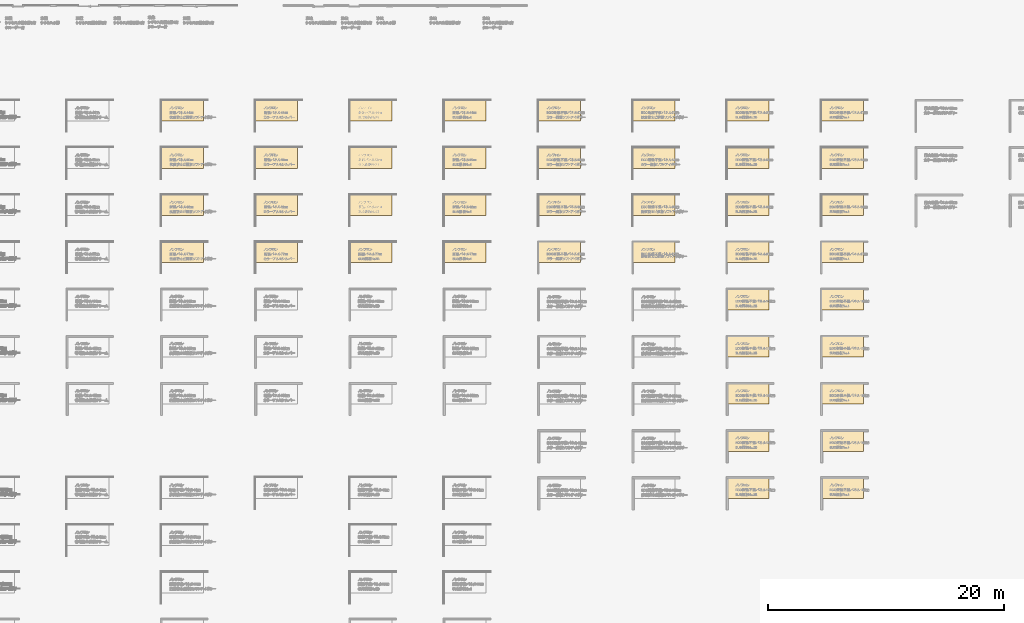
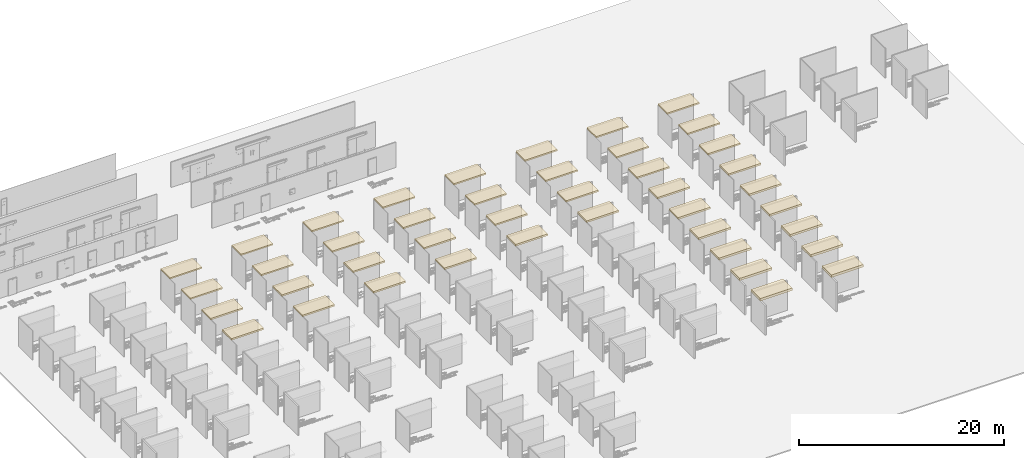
# One storey, part 9 of 16: 42 coverings.
"""IFC2X3 building model written with IfcOpenShell, lengths in millimetres."""

import ifcopenshell
import ifcopenshell.guid

model = None  # the IFC model being written
_history = None  # IfcOwnerHistory: only IFC2X3 demands one
_inside = {}  # id of a spatial element -> (the spatial element, [elements in it])
_under = {}  # id of a project, library or spatial element -> (it, [spatial elements below it])
_declared = {}  # id of a project -> (the project, [libraries it declares])
_typed = {}  # id of a type object -> (the type object, [elements of that type])
_made_of = {}  # id of a material, layer set ... -> (it, [elements and type objects made of it])


def new_model(schema):
    """Start an empty IFC model of exactly this schema.

    Asked for "IFC4X3", IfcOpenShell would pick the latest addendum, in which some entities
    have other attributes; the version numbers below select the first issue.
    IFC2X3 requires an IfcOwnerHistory on every rooted entity: one is made here for all.
    """
    global model, _history
    if schema == "IFC4X3":
        model = ifcopenshell.file(schema_version=(4, 3, 0, 0))
    else:
        model = ifcopenshell.file(schema=schema)
    _inside.clear()
    _under.clear()
    _declared.clear()
    _typed.clear()
    _made_of.clear()
    _history = None
    if model.schema == "IFC2X3":
        org = make("IfcOrganization", Name="unknown")
        user = make(
            "IfcPersonAndOrganization",
            ThePerson=make("IfcPerson", FamilyName="unknown"),
            TheOrganization=org,
        )
        app = make(
            "IfcApplication",
            ApplicationDeveloper=org,
            Version="unknown",
            ApplicationFullName="unknown",
            ApplicationIdentifier="unknown",
        )
        _history = make(
            "IfcOwnerHistory",
            OwningUser=user,
            OwningApplication=app,
            ChangeAction="ADDED",
            CreationDate=0,
        )
    return model


def make(cls, **values):
    """One entity of the class cls with the attributes given. An attribute that is None is left unset."""
    return model.create_entity(
        cls, **{name: value for name, value in values.items() if value is not None}
    )


def entity(cls, *values):
    """Any entity or typed value of the class cls, its attributes in the order of the schema. None: left unset."""
    e = model.create_entity(cls)
    for i, value in enumerate(values):
        if value is not None:
            e[i] = value
    return e


def rooted(cls, **values):
    """An entity with a GlobalId (a new one), such as an element, a storey or a relation."""
    return make(cls, GlobalId=ifcopenshell.guid.new(), OwnerHistory=_history, **values)


def si_unit(unit_type, name, prefix=None):
    """IfcSIUnit, for example si_unit("LENGTHUNIT", "METRE", prefix="MILLI")."""
    return make("IfcSIUnit", UnitType=unit_type, Prefix=prefix, Name=name)


def converted_unit(unit_type, name, factor, base, dimensions=None, offset=None):
    """IfcConversionBasedUnit, such as the inch: factor (a typed value) times the base unit."""
    return make(
        "IfcConversionBasedUnit"
        if offset is None
        else "IfcConversionBasedUnitWithOffset",
        ConversionOffset=offset,
        Dimensions=None
        if dimensions is None
        else entity("IfcDimensionalExponents", *dimensions),
        UnitType=unit_type,
        Name=name,
        ConversionFactor=make(
            "IfcMeasureWithUnit", ValueComponent=factor, UnitComponent=base
        ),
    )


def derived_unit(unit_type, elements):
    """IfcDerivedUnit: a product of units, each with its exponent."""
    return make(
        "IfcDerivedUnit",
        Elements=[
            make("IfcDerivedUnitElement", Unit=unit, Exponent=power)
            for unit, power in elements
        ],
        UnitType=unit_type,
    )


def assignment(units):
    """IfcUnitAssignment: the units of a project."""
    return None if units is None else make("IfcUnitAssignment", Units=units)


def point(xyz):
    """IfcCartesianPoint."""
    return None if xyz is None else make("IfcCartesianPoint", Coordinates=xyz)


def direction(xyz):
    """IfcDirection."""
    return None if xyz is None else make("IfcDirection", DirectionRatios=xyz)


def frame(location, z_axis=None, x_axis=None):
    """IfcAxis2Placement3D, a coordinate frame: its origin and axes. An axis left out is left unset."""
    return make(
        "IfcAxis2Placement3D",
        Location=point(location),
        Axis=direction(z_axis),
        RefDirection=direction(x_axis),
    )


def frame_2d(location, x_axis=None):
    """IfcAxis2Placement2D, a coordinate frame in the plane: its origin and x axis."""
    return make(
        "IfcAxis2Placement2D", Location=point(location), RefDirection=direction(x_axis)
    )


def origin():
    """The frame at (0, 0, 0) with its axes left unset."""
    return frame((0.0, 0.0, 0.0))


def place(relative_to, where):
    """IfcLocalPlacement: puts the frame where relative to a parent placement (None: the world)."""
    return make(
        "IfcLocalPlacement", PlacementRelTo=relative_to, RelativePlacement=where
    )


def context(
    kind, dimensions, precision=None, world=None, true_north=None, identifier=None
):
    """IfcGeometricRepresentationContext, for example the 3D "Model" context."""
    return make(
        "IfcGeometricRepresentationContext",
        ContextIdentifier=identifier,
        ContextType=kind,
        CoordinateSpaceDimension=dimensions,
        Precision=precision,
        WorldCoordinateSystem=world,
        TrueNorth=true_north,
    )


def subcontext(parent, identifier, kind, view, scale=None):
    """IfcGeometricRepresentationSubContext, for example "Body" below "Model"."""
    return make(
        "IfcGeometricRepresentationSubContext",
        ContextIdentifier=identifier,
        ContextType=kind,
        ParentContext=parent,
        TargetScale=scale,
        TargetView=view,
    )


def project(units=None, contexts=None):
    """IfcProject with its units and contexts."""
    return rooted(
        "IfcProject",
        Name="project",
        RepresentationContexts=contexts,
        UnitsInContext=assignment(units),
    )


def spatial(cls, under=None, at=None, **own):
    """A site, building, storey or space (cls), placed at a placement, below another one or the project."""
    s = rooted(cls, ObjectPlacement=at, **own)
    if under is not None:
        _under.setdefault(under.id(), (under, []))[1].append(s)
    return s


def profile(cls, at=None, kind="AREA", **sizes):
    """A parametric profile (cls). Its sizes go by their IFC names, for example OverallWidth=200.0."""
    return make(cls, ProfileType=kind, Position=at, **sizes)


def rectangle(**sizes):
    """IfcRectangleProfileDef."""
    return profile("IfcRectangleProfileDef", **sizes)


def extrude(swept, where, along, depth):
    """IfcExtrudedAreaSolid: the profile swept, set in the frame where, extruded along a direction by depth."""
    return make(
        "IfcExtrudedAreaSolid",
        SweptArea=swept,
        Position=where,
        ExtrudedDirection=direction(along),
        Depth=depth,
    )


def shape(context_of_items, identifier, shape_type, items):
    """IfcShapeRepresentation: the items that make up one representation, for example the "Body"."""
    return make(
        "IfcShapeRepresentation",
        ContextOfItems=context_of_items,
        RepresentationIdentifier=identifier,
        RepresentationType=shape_type,
        Items=items,
    )


def material(Name=None, Category=None):
    """IfcMaterial."""
    return make("IfcMaterial", Name=Name, Category=Category)


def layer(
    of_material, thickness, ventilated=None, Name=None, Category=None, Priority=None
):
    """IfcMaterialLayer: one layer of a wall or slab, of a material (None: an air gap)."""
    return make(
        "IfcMaterialLayer",
        Material=of_material,
        LayerThickness=thickness,
        IsVentilated=ventilated,
        Name=Name,
        Category=Category,
        Priority=Priority,
    )


def layer_set(layers, Name=None):
    """IfcMaterialLayerSet."""
    return make("IfcMaterialLayerSet", MaterialLayers=layers, LayerSetName=Name)


def layer_usage(for_layer_set, set_direction, sense, offset, extent=None):
    """IfcMaterialLayerSetUsage: how a layer set lies in its element."""
    return make(
        "IfcMaterialLayerSetUsage",
        ForLayerSet=for_layer_set,
        LayerSetDirection=set_direction,
        DirectionSense=sense,
        OffsetFromReferenceLine=offset,
        ReferenceExtent=extent,
    )


def made_of(thing, what):
    """Note that an element or type object is made of a material, layer set ...; save() writes the relation."""
    if what is not None:
        _made_of.setdefault(what.id(), (what, []))[1].append(thing)
    return thing


def type_object(cls, material=None, **own):
    """A type object (cls), such as IfcWallType, which elements share."""
    return made_of(rooted(cls, **own), material)


def element(
    cls,
    number,
    at=None,
    inside=None,
    cuts=None,
    type_object=None,
    material=None,
    context=None,
    identifier="Body",
    shape_type=None,
    held_by="IfcProductDefinitionShape",
    body=None,
    shapes=None,
    **own,
):
    """One element of the class cls, such as IfcWall. Its Tag is "e" and its number.

    at: its placement. inside: the storey or other place that contains it. cuts: it is an
    opening in that element (IfcRelVoidsElement). A single representation is given by context,
    identifier, shape_type and body (its items); several are given by shapes. held_by: the class
    of the entity that holds the representations. save() writes the other relations.
    """
    e = rooted(cls, Tag="e%d" % number, ObjectPlacement=at, **own)
    if body is not None:
        shapes = [shape(context, identifier, shape_type, body)]
    if shapes is not None:
        e.Representation = make(held_by, Representations=shapes)
    if inside is not None:
        _inside.setdefault(inside.id(), (inside, []))[1].append(e)
    if cuts is not None:
        rooted(
            "IfcRelVoidsElement", RelatingBuildingElement=cuts, RelatedOpeningElement=e
        )
    if type_object is not None:
        _typed.setdefault(type_object.id(), (type_object, []))[1].append(e)
    return made_of(e, material)


def aggregate(whole, parts):
    """IfcRelAggregates: a whole, such as a stair, and the parts it consists of."""
    return rooted("IfcRelAggregates", RelatingObject=whole, RelatedObjects=parts)


def save(model, path):
    """Write the relations noted so far, then the file.

    IfcRelAggregates (storeys below a building ...), IfcRelContainedInSpatialStructure (elements
    in a storey), IfcRelDefinesByType, IfcRelAssociatesMaterial and IfcRelDeclares: one each for
    every whole, place, type object, material and project.
    """
    for whole, parts in _under.values():
        aggregate(whole, parts)
    for where, things in _inside.values():
        rooted(
            "IfcRelContainedInSpatialStructure",
            RelatedElements=things,
            RelatingStructure=where,
        )
    for kind, things in _typed.values():
        rooted("IfcRelDefinesByType", RelatedObjects=things, RelatingType=kind)
    for what, things in _made_of.values():
        rooted("IfcRelAssociatesMaterial", RelatedObjects=things, RelatingMaterial=what)
    for by, libraries in _declared.values():
        rooted("IfcRelDeclares", RelatingContext=by, RelatedDefinitions=libraries)
    model.write(path)


model = new_model("IFC2X3")

# Units and contexts
model_context = context("Model", 3, precision=0.01, world=origin(), true_north=direction((6.123031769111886e-17, 1.0)))
body_context = subcontext(model_context, "Body", "Model", "MODEL_VIEW")
ifc_project = project(units=[si_unit("LENGTHUNIT", "METRE", prefix="MILLI"), si_unit("AREAUNIT", "SQUARE_METRE"), si_unit("VOLUMEUNIT", "CUBIC_METRE"), converted_unit("PLANEANGLEUNIT", "DEGREE", entity("IfcRatioMeasure", 0.017453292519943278), si_unit("PLANEANGLEUNIT", "RADIAN"), dimensions=[0, 0, 0, 0, 0, 0, 0]), si_unit("MASSUNIT", "GRAM", prefix="KILO"), derived_unit("MASSDENSITYUNIT", [(si_unit("MASSUNIT", "GRAM", prefix="KILO"), 1), (si_unit("LENGTHUNIT", "METRE"), -3)]), derived_unit("IONCONCENTRATIONUNIT", [(si_unit("MASSUNIT", "GRAM", prefix="KILO"), 1), (si_unit("LENGTHUNIT", "METRE"), -3)]), derived_unit("MOMENTOFINERTIAUNIT", [(si_unit("LENGTHUNIT", "METRE"), 4)]), si_unit("TIMEUNIT", "SECOND"), si_unit("FREQUENCYUNIT", "HERTZ"), si_unit("THERMODYNAMICTEMPERATUREUNIT", "DEGREE_CELSIUS"), derived_unit("THERMALTRANSMITTANCEUNIT", [(si_unit("MASSUNIT", "GRAM", prefix="KILO"), 1), (si_unit("THERMODYNAMICTEMPERATUREUNIT", "KELVIN"), -1), (si_unit("TIMEUNIT", "SECOND"), -3)]), derived_unit("THERMALCONDUCTANCEUNIT", [(si_unit("MASSUNIT", "GRAM", prefix="KILO"), 1), (si_unit("THERMODYNAMICTEMPERATUREUNIT", "KELVIN"), -1), (si_unit("TIMEUNIT", "SECOND"), -3), (si_unit("LENGTHUNIT", "METRE"), 1)]), derived_unit("VOLUMETRICFLOWRATEUNIT", [(si_unit("LENGTHUNIT", "METRE"), 3), (si_unit("TIMEUNIT", "SECOND"), -1)]), derived_unit("MASSFLOWRATEUNIT", [(si_unit("MASSUNIT", "GRAM", prefix="KILO"), 1), (si_unit("TIMEUNIT", "SECOND"), -1)]), derived_unit("ROTATIONALFREQUENCYUNIT", [(si_unit("TIMEUNIT", "SECOND"), -1)]), si_unit("ELECTRICCURRENTUNIT", "AMPERE"), si_unit("ELECTRICVOLTAGEUNIT", "VOLT"), si_unit("POWERUNIT", "WATT"), si_unit("FORCEUNIT", "NEWTON", prefix="KILO"), si_unit("ILLUMINANCEUNIT", "LUX"), si_unit("LUMINOUSFLUXUNIT", "LUMEN"), si_unit("LUMINOUSINTENSITYUNIT", "CANDELA"), derived_unit("USERDEFINED", [(si_unit("MASSUNIT", "GRAM", prefix="KILO"), -1), (si_unit("LENGTHUNIT", "METRE"), -2), (si_unit("TIMEUNIT", "SECOND"), 3), (si_unit("LUMINOUSFLUXUNIT", "LUMEN"), 1)]), derived_unit("USERDEFINED", [(si_unit("MASSUNIT", "GRAM", prefix="KILO"), 1), (si_unit("TIMEUNIT", "SECOND"), -3), (si_unit("LENGTHUNIT", "METRE"), 3), (si_unit("ELECTRICCURRENTUNIT", "AMPERE"), -2)]), derived_unit("SOUNDPOWERUNIT", [(si_unit("MASSUNIT", "GRAM", prefix="KILO"), 1), (si_unit("TIMEUNIT", "SECOND"), -3), (si_unit("LENGTHUNIT", "METRE"), 2)]), derived_unit("SOUNDPRESSUREUNIT", [(si_unit("MASSUNIT", "GRAM", prefix="KILO"), 1), (si_unit("LENGTHUNIT", "METRE"), -1), (si_unit("TIMEUNIT", "SECOND"), -2)]), derived_unit("LINEARVELOCITYUNIT", [(si_unit("LENGTHUNIT", "METRE"), 1), (si_unit("TIMEUNIT", "SECOND"), -1)]), si_unit("PRESSUREUNIT", "PASCAL"), derived_unit("USERDEFINED", [(si_unit("MASSUNIT", "GRAM", prefix="KILO"), 1), (si_unit("LENGTHUNIT", "METRE"), -2), (si_unit("TIMEUNIT", "SECOND"), -2)]), derived_unit("LINEARFORCEUNIT", [(si_unit("MASSUNIT", "GRAM", prefix="KILO"), 1), (si_unit("TIMEUNIT", "SECOND"), -2)]), derived_unit("PLANARFORCEUNIT", [(si_unit("MASSUNIT", "GRAM", prefix="KILO"), 1), (si_unit("LENGTHUNIT", "METRE"), -1), (si_unit("TIMEUNIT", "SECOND"), -2)]), derived_unit("SPECIFICHEATCAPACITYUNIT", [(si_unit("THERMODYNAMICTEMPERATUREUNIT", "KELVIN"), -1), (si_unit("LENGTHUNIT", "METRE"), 2), (si_unit("TIMEUNIT", "SECOND"), -2)]), derived_unit("HEATINGVALUEUNIT", [(si_unit("LENGTHUNIT", "METRE"), 2), (si_unit("TIMEUNIT", "SECOND"), -2)]), derived_unit("VAPORPERMEABILITYUNIT", [(si_unit("LENGTHUNIT", "METRE"), -1), (si_unit("TIMEUNIT", "SECOND"), 1)]), derived_unit("DYNAMICVISCOSITYUNIT", [(si_unit("MASSUNIT", "GRAM", prefix="KILO"), 1), (si_unit("TIMEUNIT", "SECOND"), -1), (si_unit("LENGTHUNIT", "METRE"), -1)]), derived_unit("THERMALEXPANSIONCOEFFICIENTUNIT", [(si_unit("THERMODYNAMICTEMPERATUREUNIT", "KELVIN"), -1)]), derived_unit("MODULUSOFELASTICITYUNIT", [(si_unit("MASSUNIT", "GRAM", prefix="KILO"), 1), (si_unit("LENGTHUNIT", "METRE"), -1), (si_unit("TIMEUNIT", "SECOND"), -2)]), derived_unit("ISOTHERMALMOISTURECAPACITYUNIT", [(si_unit("LENGTHUNIT", "METRE"), 3), (si_unit("MASSUNIT", "GRAM", prefix="KILO"), -1)]), derived_unit("MOISTUREDIFFUSIVITYUNIT", [(si_unit("TIMEUNIT", "SECOND"), -1), (si_unit("LENGTHUNIT", "METRE"), 2)])], contexts=[model_context])

# Site, building, storey
site_placement = place(None, origin())
site = spatial("IfcSite", under=ifc_project, at=site_placement, Name="Default", CompositionType="ELEMENT")
building_placement = place(site_placement, origin())
building = spatial("IfcBuilding", under=site, at=building_placement, CompositionType="ELEMENT")
storey_placement = place(building_placement, frame((0.0, 0.0, 500.0)))
storey = spatial("IfcBuildingStorey", under=building, at=storey_placement, Name="レベル 1", CompositionType="ELEMENT", Elevation=500.00000000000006)

# Coverings
ifc_material_1 = material(Name="<Unnamed>")
ifc_layer_1 = layer(ifc_material_1, 125.00000000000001)
ifc_material_2 = material(Name="g-p_硬質ウレタンフォーム")
ifc_layer_2 = layer(ifc_material_2, 44.0)
ifc_layer_set_1 = layer_set([ifc_layer_1, ifc_layer_2], Name="天井:g-p_断熱パネルt44+天井下地材t125_900x2700")
ifc_layer_usage_1 = layer_usage(ifc_layer_set_1, "AXIS3", "POSITIVE", 0.0)
covering_type_1 = type_object("IfcCoveringType", Name="天井:g-p_断熱パネルt44+天井下地材t125_900x2700", PredefinedType="CEILING")
covering_1_placement = place(storey_placement, origin())
element("IfcCovering", 1, at=covering_1_placement, inside=storey, type_object=covering_type_1, material=ifc_layer_usage_1, Name="天井:g-p_断熱パネルt44+天井下地材t125_900x2700", ObjectType="天井:g-p_断熱パネルt44+天井下地材t125_900x2700", PredefinedType="CEILING", context=body_context, shape_type="SweptSolid", body=[
    extrude(rectangle(XDim=3622.0, YDim=1822.0000000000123, at=frame_2d((-2.1600499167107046e-12, -1.0800249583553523e-12), x_axis=(1.0, 0.0))), frame((-6189.0, 11089.0, 3500.0)), (0.0, 0.0, 1.0), 169.00000000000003),
])
covering_2_placement = place(storey_placement, origin())
element("IfcCovering", 2, at=covering_2_placement, inside=storey, type_object=covering_type_1, material=ifc_layer_usage_1, Name="天井:g-p_断熱パネルt44+天井下地材t125_900x2700", ObjectType="天井:g-p_断熱パネルt44+天井下地材t125_900x2700", PredefinedType="CEILING", context=body_context, shape_type="SweptSolid", body=[
    extrude(rectangle(XDim=3621.999999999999, YDim=1822.0000000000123, at=frame_2d((-1.8189894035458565e-12, -1.0800249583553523e-12), x_axis=(1.0, 0.0))), frame((1811.0, 11089.0, 3500.0)), (0.0, 0.0, 1.0), 169.00000000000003),
])
covering_3_placement = place(storey_placement, origin())
element("IfcCovering", 3, at=covering_3_placement, inside=storey, type_object=covering_type_1, material=ifc_layer_usage_1, Name="天井:g-p_断熱パネルt44+天井下地材t125_900x2700", ObjectType="天井:g-p_断熱パネルt44+天井下地材t125_900x2700", PredefinedType="CEILING", context=body_context, shape_type="SweptSolid", body=[
    extrude(rectangle(XDim=3622.0, YDim=1822.0000000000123, at=frame_2d((-2.1600499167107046e-12, -1.0800249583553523e-12), x_axis=(1.0, 0.0))), frame((9811.0, 11089.0, 3500.0)), (0.0, 0.0, 1.0), 169.00000000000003),
])
covering_4_placement = place(storey_placement, origin())
element("IfcCovering", 4, at=covering_4_placement, inside=storey, type_object=covering_type_1, material=ifc_layer_usage_1, Name="天井:g-p_断熱パネルt44+天井下地材t125_900x2700", ObjectType="天井:g-p_断熱パネルt44+天井下地材t125_900x2700", PredefinedType="CEILING", context=body_context, shape_type="SweptSolid", body=[
    extrude(rectangle(XDim=3621.9999999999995, YDim=1822.0000000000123, at=frame_2d((0.0, -1.0800249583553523e-12), x_axis=(1.0, 0.0))), frame((17811.0, 11089.0, 3500.0)), (0.0, 0.0, 1.0), 169.00000000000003),
])
ifc_layer_3 = layer(ifc_material_1, 125.00000000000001)
ifc_layer_4 = layer(ifc_material_2, 50.0)
ifc_layer_set_2 = layer_set([ifc_layer_3, ifc_layer_4], Name="天井:g-p_断熱パネルt50+天井下地材t125_900x2700")
ifc_layer_usage_2 = layer_usage(ifc_layer_set_2, "AXIS3", "POSITIVE", 0.0)
covering_type_2 = type_object("IfcCoveringType", Name="天井:g-p_断熱パネルt50+天井下地材t125_900x2700", PredefinedType="CEILING")
covering_5_placement = place(storey_placement, origin())
element("IfcCovering", 5, at=covering_5_placement, inside=storey, type_object=covering_type_2, material=ifc_layer_usage_2, Name="天井:g-p_断熱パネルt50+天井下地材t125_900x2700", ObjectType="天井:g-p_断熱パネルt50+天井下地材t125_900x2700", PredefinedType="CEILING", context=body_context, shape_type="SweptSolid", body=[
    extrude(rectangle(XDim=3622.0000000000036, YDim=1822.0000000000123, at=frame_2d((-2.1600499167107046e-12, -2.6716406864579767e-12), x_axis=(1.0, 0.0))), frame((-6189.0, 7089.0, 3500.0)), (0.0, 0.0, 1.0), 175.00000000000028),
])
covering_6_placement = place(storey_placement, origin())
element("IfcCovering", 6, at=covering_6_placement, inside=storey, type_object=covering_type_2, material=ifc_layer_usage_2, Name="天井:g-p_断熱パネルt50+天井下地材t125_900x2700", ObjectType="天井:g-p_断熱パネルt50+天井下地材t125_900x2700", PredefinedType="CEILING", context=body_context, shape_type="SweptSolid", body=[
    extrude(rectangle(XDim=3622.0000000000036, YDim=1822.0000000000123, at=frame_2d((-1.9326762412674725e-12, -2.6716406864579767e-12), x_axis=(1.0, 0.0))), frame((1811.0, 7089.0, 3500.0)), (0.0, 0.0, 1.0), 175.00000000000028),
])
covering_7_placement = place(storey_placement, origin())
element("IfcCovering", 7, at=covering_7_placement, inside=storey, type_object=covering_type_2, material=ifc_layer_usage_2, Name="天井:g-p_断熱パネルt50+天井下地材t125_900x2700", ObjectType="天井:g-p_断熱パネルt50+天井下地材t125_900x2700", PredefinedType="CEILING", context=body_context, shape_type="SweptSolid", body=[
    extrude(rectangle(XDim=3622.0000000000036, YDim=1822.0000000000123, at=frame_2d((-2.1600499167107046e-12, -2.6716406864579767e-12), x_axis=(1.0, 0.0))), frame((9811.0, 7089.0, 3500.0)), (0.0, 0.0, 1.0), 175.00000000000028),
])
covering_8_placement = place(storey_placement, origin())
element("IfcCovering", 8, at=covering_8_placement, inside=storey, type_object=covering_type_2, material=ifc_layer_usage_2, Name="天井:g-p_断熱パネルt50+天井下地材t125_900x2700", ObjectType="天井:g-p_断熱パネルt50+天井下地材t125_900x2700", PredefinedType="CEILING", context=body_context, shape_type="SweptSolid", body=[
    extrude(rectangle(XDim=3622.0000000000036, YDim=1822.0000000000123, at=frame_2d((-2.1600499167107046e-12, -2.6716406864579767e-12), x_axis=(1.0, 0.0))), frame((17811.0, 7089.0, 3500.0)), (0.0, 0.0, 1.0), 175.00000000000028),
])
ifc_layer_5 = layer(ifc_material_1, 125.00000000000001)
ifc_layer_6 = layer(ifc_material_2, 62.0)
ifc_layer_set_3 = layer_set([ifc_layer_5, ifc_layer_6], Name="天井:g-p_断熱パネルt62+天井下地材t125_900x2700")
ifc_layer_usage_3 = layer_usage(ifc_layer_set_3, "AXIS3", "POSITIVE", 0.0)
covering_type_3 = type_object("IfcCoveringType", Name="天井:g-p_断熱パネルt62+天井下地材t125_900x2700", PredefinedType="CEILING")
covering_9_placement = place(storey_placement, origin())
element("IfcCovering", 9, at=covering_9_placement, inside=storey, type_object=covering_type_3, material=ifc_layer_usage_3, Name="天井:g-p_断熱パネルt62+天井下地材t125_900x2700", ObjectType="天井:g-p_断熱パネルt62+天井下地材t125_900x2700", PredefinedType="CEILING", context=body_context, shape_type="SweptSolid", body=[
    extrude(rectangle(XDim=3622.0000000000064, YDim=1822.0000000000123, at=frame_2d((-1.0231815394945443e-12, -2.9558577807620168e-12), x_axis=(1.0, 0.0))), frame((-6189.0, 3089.0, 3500.0)), (0.0, 0.0, 1.0), 186.99999999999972),
])
covering_10_placement = place(storey_placement, origin())
element("IfcCovering", 10, at=covering_10_placement, inside=storey, type_object=covering_type_3, material=ifc_layer_usage_3, Name="天井:g-p_断熱パネルt62+天井下地材t125_900x2700", ObjectType="天井:g-p_断熱パネルt62+天井下地材t125_900x2700", PredefinedType="CEILING", context=body_context, shape_type="SweptSolid", body=[
    extrude(rectangle(XDim=3622.0000000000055, YDim=1822.0000000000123, at=frame_2d((-1.3642420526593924e-12, -2.9558577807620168e-12), x_axis=(1.0, 0.0))), frame((1811.0, 3089.0, 3500.0)), (0.0, 0.0, 1.0), 186.99999999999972),
])
covering_11_placement = place(storey_placement, origin())
element("IfcCovering", 11, at=covering_11_placement, inside=storey, type_object=covering_type_3, material=ifc_layer_usage_3, Name="天井:g-p_断熱パネルt62+天井下地材t125_900x2700", ObjectType="天井:g-p_断熱パネルt62+天井下地材t125_900x2700", PredefinedType="CEILING", context=body_context, shape_type="SweptSolid", body=[
    extrude(rectangle(XDim=3622.0000000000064, YDim=1822.0000000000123, at=frame_2d((-1.0231815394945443e-12, -2.9558577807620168e-12), x_axis=(1.0, 0.0))), frame((9811.0, 3089.0, 3500.0)), (0.0, 0.0, 1.0), 186.99999999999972),
])
covering_12_placement = place(storey_placement, origin())
element("IfcCovering", 12, at=covering_12_placement, inside=storey, type_object=covering_type_3, material=ifc_layer_usage_3, Name="天井:g-p_断熱パネルt62+天井下地材t125_900x2700", ObjectType="天井:g-p_断熱パネルt62+天井下地材t125_900x2700", PredefinedType="CEILING", context=body_context, shape_type="SweptSolid", body=[
    extrude(rectangle(XDim=3622.000000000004, YDim=1822.0000000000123, at=frame_2d((0.0, -2.9558577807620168e-12), x_axis=(1.0, 0.0))), frame((17811.0, 3089.0, 3500.0)), (0.0, 0.0, 1.0), 186.99999999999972),
])
ifc_layer_7 = layer(ifc_material_1, 125.00000000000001)
ifc_layer_8 = layer(ifc_material_2, 77.0)
ifc_layer_set_4 = layer_set([ifc_layer_7, ifc_layer_8], Name="天井:g-p_断熱パネルt77+天井下地材t125_900x2700")
ifc_layer_usage_4 = layer_usage(ifc_layer_set_4, "AXIS3", "POSITIVE", 0.0)
covering_type_4 = type_object("IfcCoveringType", Name="天井:g-p_断熱パネルt77+天井下地材t125_900x2700", PredefinedType="CEILING")
covering_13_placement = place(storey_placement, origin())
element("IfcCovering", 13, at=covering_13_placement, inside=storey, type_object=covering_type_4, material=ifc_layer_usage_4, Name="天井:g-p_断熱パネルt77+天井下地材t125_900x2700", ObjectType="天井:g-p_断熱パネルt77+天井下地材t125_900x2700", PredefinedType="CEILING", context=body_context, shape_type="SweptSolid", body=[
    extrude(rectangle(XDim=3622.0000000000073, YDim=1822.0000000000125, at=frame_2d((-1.5916157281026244e-12, -3.0127011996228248e-12), x_axis=(1.0, 0.0))), frame((-6189.0, -911.0, 3500.0)), (0.0, 0.0, 1.0), 202.0000000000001),
])
covering_14_placement = place(storey_placement, origin())
element("IfcCovering", 14, at=covering_14_placement, inside=storey, type_object=covering_type_4, material=ifc_layer_usage_4, Name="天井:g-p_断熱パネルt77+天井下地材t125_900x2700", ObjectType="天井:g-p_断熱パネルt77+天井下地材t125_900x2700", PredefinedType="CEILING", context=body_context, shape_type="SweptSolid", body=[
    extrude(rectangle(XDim=3622.0000000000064, YDim=1822.0000000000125, at=frame_2d((-1.9326762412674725e-12, -3.0127011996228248e-12), x_axis=(1.0, 0.0))), frame((1811.0, -911.0, 3500.0)), (0.0, 0.0, 1.0), 202.0000000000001),
])
covering_15_placement = place(storey_placement, origin())
element("IfcCovering", 15, at=covering_15_placement, inside=storey, type_object=covering_type_4, material=ifc_layer_usage_4, Name="天井:g-p_断熱パネルt77+天井下地材t125_900x2700", ObjectType="天井:g-p_断熱パネルt77+天井下地材t125_900x2700", PredefinedType="CEILING", context=body_context, shape_type="SweptSolid", body=[
    extrude(rectangle(XDim=3622.0000000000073, YDim=1822.0000000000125, at=frame_2d((-1.5916157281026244e-12, -3.0127011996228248e-12), x_axis=(1.0, 0.0))), frame((9811.0, -911.0, 3500.0)), (0.0, 0.0, 1.0), 202.0000000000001),
])
covering_16_placement = place(storey_placement, origin())
element("IfcCovering", 16, at=covering_16_placement, inside=storey, type_object=covering_type_4, material=ifc_layer_usage_4, Name="天井:g-p_断熱パネルt77+天井下地材t125_900x2700", ObjectType="天井:g-p_断熱パネルt77+天井下地材t125_900x2700", PredefinedType="CEILING", context=body_context, shape_type="SweptSolid", body=[
    extrude(rectangle(XDim=3622.000000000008, YDim=1822.0000000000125, at=frame_2d((0.0, -3.0127011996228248e-12), x_axis=(1.0, 0.0))), frame((17811.0, -911.0, 3500.0)), (0.0, 0.0, 1.0), 202.0000000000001),
])
ifc_layer_9 = layer(ifc_material_1, 125.00000000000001)
ifc_material_3 = material(Name="g-p_フェノールフォーム")
ifc_layer_10 = layer(ifc_material_3, 52.00000000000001)
ifc_layer_set_5 = layer_set([ifc_layer_9, ifc_layer_10], Name="天井:g-p_ECO不燃断熱パネルt52+天井下地材t125_900x2700")
ifc_layer_usage_5 = layer_usage(ifc_layer_set_5, "AXIS3", "POSITIVE", 0.0)
covering_type_5 = type_object("IfcCoveringType", Name="天井:g-p_ECO不燃断熱パネルt52+天井下地材t125_900x2700", PredefinedType="CEILING")
covering_17_placement = place(storey_placement, origin())
element("IfcCovering", 17, at=covering_17_placement, inside=storey, type_object=covering_type_5, material=ifc_layer_usage_5, Name="天井:g-p_ECO不燃断熱パネルt52+天井下地材t125_900x2700", ObjectType="天井:g-p_ECO不燃断熱パネルt52+天井下地材t125_900x2700", PredefinedType="CEILING", context=body_context, shape_type="SweptSolid", body=[
    extrude(rectangle(XDim=3621.9999999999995, YDim=1822.000000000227, at=frame_2d((0.0, -2.7284841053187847e-12), x_axis=(1.0, 0.0))), frame((25811.0, 7089.0, 3500.0)), (0.0, 0.0, 1.0), 176.99999999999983),
])
covering_18_placement = place(storey_placement, origin())
element("IfcCovering", 18, at=covering_18_placement, inside=storey, type_object=covering_type_5, material=ifc_layer_usage_5, Name="天井:g-p_ECO不燃断熱パネルt52+天井下地材t125_900x2700", ObjectType="天井:g-p_ECO不燃断熱パネルt52+天井下地材t125_900x2700", PredefinedType="CEILING", context=body_context, shape_type="SweptSolid", body=[
    extrude(rectangle(XDim=3621.999999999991, YDim=1822.000000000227, at=frame_2d((0.0, -3.296918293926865e-12), x_axis=(1.0, 0.0))), frame((25811.0, 11089.0, 3500.0)), (0.0, 0.0, 1.0), 176.99999999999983),
])
covering_19_placement = place(storey_placement, origin())
element("IfcCovering", 19, at=covering_19_placement, inside=storey, type_object=covering_type_5, material=ifc_layer_usage_5, Name="天井:g-p_ECO不燃断熱パネルt52+天井下地材t125_900x2700", ObjectType="天井:g-p_ECO不燃断熱パネルt52+天井下地材t125_900x2700", PredefinedType="CEILING", context=body_context, shape_type="SweptSolid", body=[
    extrude(rectangle(XDim=3621.9999999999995, YDim=1822.000000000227, at=frame_2d((-4.320099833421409e-12, -2.7284841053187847e-12), x_axis=(1.0, 0.0))), frame((33811.0, 7089.0, 3500.0)), (0.0, 0.0, 1.0), 176.99999999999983),
])
covering_20_placement = place(storey_placement, origin())
element("IfcCovering", 20, at=covering_20_placement, inside=storey, type_object=covering_type_5, material=ifc_layer_usage_5, Name="天井:g-p_ECO不燃断熱パネルt52+天井下地材t125_900x2700", ObjectType="天井:g-p_ECO不燃断熱パネルt52+天井下地材t125_900x2700", PredefinedType="CEILING", context=body_context, shape_type="SweptSolid", body=[
    extrude(rectangle(XDim=3621.9999999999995, YDim=1822.000000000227, at=frame_2d((-4.320099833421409e-12, -2.1600499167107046e-12), x_axis=(1.0, 0.0))), frame((33811.0, 11089.0, 3500.0)), (0.0, 0.0, 1.0), 176.99999999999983),
])
covering_21_placement = place(storey_placement, origin())
element("IfcCovering", 21, at=covering_21_placement, inside=storey, type_object=covering_type_5, material=ifc_layer_usage_5, Name="天井:g-p_ECO不燃断熱パネルt52+天井下地材t125_900x2700", ObjectType="天井:g-p_ECO不燃断熱パネルt52+天井下地材t125_900x2700", PredefinedType="CEILING", context=body_context, shape_type="SweptSolid", body=[
    extrude(rectangle(XDim=3622.000000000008, YDim=1822.000000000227, at=frame_2d((0.0, -2.7284841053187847e-12), x_axis=(1.0, 0.0))), frame((41811.0, 7089.0, 3500.0)), (0.0, 0.0, 1.0), 176.99999999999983),
])
covering_22_placement = place(storey_placement, origin())
element("IfcCovering", 22, at=covering_22_placement, inside=storey, type_object=covering_type_5, material=ifc_layer_usage_5, Name="天井:g-p_ECO不燃断熱パネルt52+天井下地材t125_900x2700", ObjectType="天井:g-p_ECO不燃断熱パネルt52+天井下地材t125_900x2700", PredefinedType="CEILING", context=body_context, shape_type="SweptSolid", body=[
    extrude(rectangle(XDim=3621.9999999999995, YDim=1822.000000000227, at=frame_2d((4.320099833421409e-12, -2.1600499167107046e-12), x_axis=(1.0, 0.0))), frame((41811.0, 11089.0, 3500.0)), (0.0, 0.0, 1.0), 176.99999999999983),
])
covering_23_placement = place(storey_placement, origin())
element("IfcCovering", 23, at=covering_23_placement, inside=storey, type_object=covering_type_5, material=ifc_layer_usage_5, Name="天井:g-p_ECO不燃断熱パネルt52+天井下地材t125_900x2700", ObjectType="天井:g-p_ECO不燃断熱パネルt52+天井下地材t125_900x2700", PredefinedType="CEILING", context=body_context, shape_type="SweptSolid", body=[
    extrude(rectangle(XDim=3622.000000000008, YDim=1822.000000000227, at=frame_2d((0.0, -2.7284841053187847e-12), x_axis=(1.0, 0.0))), frame((49811.0, 7089.0, 3500.0)), (0.0, 0.0, 1.0), 176.99999999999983),
])
covering_24_placement = place(storey_placement, origin())
element("IfcCovering", 24, at=covering_24_placement, inside=storey, type_object=covering_type_5, material=ifc_layer_usage_5, Name="天井:g-p_ECO不燃断熱パネルt52+天井下地材t125_900x2700", ObjectType="天井:g-p_ECO不燃断熱パネルt52+天井下地材t125_900x2700", PredefinedType="CEILING", context=body_context, shape_type="SweptSolid", body=[
    extrude(rectangle(XDim=3621.9999999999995, YDim=1822.000000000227, at=frame_2d((4.320099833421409e-12, -2.1600499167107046e-12), x_axis=(1.0, 0.0))), frame((49811.0, 11089.0, 3500.0)), (0.0, 0.0, 1.0), 176.99999999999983),
])
ifc_layer_11 = layer(ifc_material_1, 125.00000000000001)
ifc_layer_12 = layer(ifc_material_3, 68.0)
ifc_layer_set_6 = layer_set([ifc_layer_11, ifc_layer_12], Name="天井:g-p_ECO不燃断熱パネルt68+天井下地材t125_900x2700")
ifc_layer_usage_6 = layer_usage(ifc_layer_set_6, "AXIS3", "POSITIVE", 0.0)
covering_type_6 = type_object("IfcCoveringType", Name="天井:g-p_ECO不燃断熱パネルt68+天井下地材t125_900x2700", PredefinedType="CEILING")
covering_25_placement = place(storey_placement, origin())
element("IfcCovering", 25, at=covering_25_placement, inside=storey, type_object=covering_type_6, material=ifc_layer_usage_6, Name="天井:g-p_ECO不燃断熱パネルt68+天井下地材t125_900x2700", ObjectType="天井:g-p_ECO不燃断熱パネルt68+天井下地材t125_900x2700", PredefinedType="CEILING", context=body_context, shape_type="SweptSolid", body=[
    extrude(rectangle(XDim=3622.000000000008, YDim=1822.000000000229, at=frame_2d((0.0, -3.808509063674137e-12), x_axis=(1.0, 0.0))), frame((25811.0, 3089.0, 3500.0)), (0.0, 0.0, 1.0), 192.99999999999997),
])
covering_26_placement = place(storey_placement, origin())
element("IfcCovering", 26, at=covering_26_placement, inside=storey, type_object=covering_type_6, material=ifc_layer_usage_6, Name="天井:g-p_ECO不燃断熱パネルt68+天井下地材t125_900x2700", ObjectType="天井:g-p_ECO不燃断熱パネルt68+天井下地材t125_900x2700", PredefinedType="CEILING", context=body_context, shape_type="SweptSolid", body=[
    extrude(rectangle(XDim=3622.000000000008, YDim=1822.0000000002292, at=frame_2d((0.0, -2.4442670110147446e-12), x_axis=(1.0, 0.0))), frame((33811.0, 3089.0, 3500.0)), (0.0, 0.0, 1.0), 192.99999999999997),
])
covering_27_placement = place(storey_placement, origin())
element("IfcCovering", 27, at=covering_27_placement, inside=storey, type_object=covering_type_6, material=ifc_layer_usage_6, Name="天井:g-p_ECO不燃断熱パネルt68+天井下地材t125_900x2700", ObjectType="天井:g-p_ECO不燃断熱パネルt68+天井下地材t125_900x2700", PredefinedType="CEILING", context=body_context, shape_type="SweptSolid", body=[
    extrude(rectangle(XDim=3622.000000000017, YDim=1822.000000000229, at=frame_2d((-4.320099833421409e-12, -3.524291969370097e-12), x_axis=(1.0, 0.0))), frame((41811.0, 3089.0, 3500.0)), (0.0, 0.0, 1.0), 192.99999999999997),
])
covering_28_placement = place(storey_placement, origin())
element("IfcCovering", 28, at=covering_28_placement, inside=storey, type_object=covering_type_6, material=ifc_layer_usage_6, Name="天井:g-p_ECO不燃断熱パネルt68+天井下地材t125_900x2700", ObjectType="天井:g-p_ECO不燃断熱パネルt68+天井下地材t125_900x2700", PredefinedType="CEILING", context=body_context, shape_type="SweptSolid", body=[
    extrude(rectangle(XDim=3622.000000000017, YDim=1822.0000000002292, at=frame_2d((-4.320099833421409e-12, -2.4442670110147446e-12), x_axis=(1.0, 0.0))), frame((49811.0, 3089.0, 3500.0)), (0.0, 0.0, 1.0), 192.99999999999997),
])
ifc_layer_13 = layer(ifc_material_1, 125.00000000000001)
ifc_layer_14 = layer(ifc_material_3, 87.0)
ifc_layer_set_7 = layer_set([ifc_layer_13, ifc_layer_14], Name="天井:g-p_ECO不燃断熱パネルt87+天井下地材t125_900x2700")
ifc_layer_usage_7 = layer_usage(ifc_layer_set_7, "AXIS3", "POSITIVE", 0.0)
covering_type_7 = type_object("IfcCoveringType", Name="天井:g-p_ECO不燃断熱パネルt87+天井下地材t125_900x2700", PredefinedType="CEILING")
covering_29_placement = place(storey_placement, origin())
element("IfcCovering", 29, at=covering_29_placement, inside=storey, type_object=covering_type_7, material=ifc_layer_usage_7, Name="天井:g-p_ECO不燃断熱パネルt87+天井下地材t125_900x2700", ObjectType="天井:g-p_ECO不燃断熱パネルt87+天井下地材t125_900x2700", PredefinedType="CEILING", context=body_context, shape_type="SweptSolid", body=[
    extrude(rectangle(XDim=3622.000000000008, YDim=1822.000000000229, at=frame_2d((0.0, -2.2737367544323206e-12), x_axis=(1.0, 0.0))), frame((25811.0, -911.0, 3500.0)), (0.0, 0.0, 1.0), 212.0),
])
covering_30_placement = place(storey_placement, origin())
element("IfcCovering", 30, at=covering_30_placement, inside=storey, type_object=covering_type_7, material=ifc_layer_usage_7, Name="天井:g-p_ECO不燃断熱パネルt87+天井下地材t125_900x2700", ObjectType="天井:g-p_ECO不燃断熱パネルt87+天井下地材t125_900x2700", PredefinedType="CEILING", context=body_context, shape_type="SweptSolid", body=[
    extrude(rectangle(XDim=3622.000000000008, YDim=1822.0000000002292, at=frame_2d((-4.320099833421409e-12, -3.410605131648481e-12), x_axis=(1.0, 0.0))), frame((33811.0, -911.0, 3500.0)), (0.0, 0.0, 1.0), 212.0),
])
covering_31_placement = place(storey_placement, origin())
element("IfcCovering", 31, at=covering_31_placement, inside=storey, type_object=covering_type_7, material=ifc_layer_usage_7, Name="天井:g-p_ECO不燃断熱パネルt87+天井下地材t125_900x2700", ObjectType="天井:g-p_ECO不燃断熱パネルt87+天井下地材t125_900x2700", PredefinedType="CEILING", context=body_context, shape_type="SweptSolid", body=[
    extrude(rectangle(XDim=3622.000000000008, YDim=1822.000000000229, at=frame_2d((0.0, -2.2737367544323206e-12), x_axis=(1.0, 0.0))), frame((41811.0, -911.0, 3500.0)), (0.0, 0.0, 1.0), 212.0),
])
covering_32_placement = place(storey_placement, origin())
element("IfcCovering", 32, at=covering_32_placement, inside=storey, type_object=covering_type_7, material=ifc_layer_usage_7, Name="天井:g-p_ECO不燃断熱パネルt87+天井下地材t125_900x2700", ObjectType="天井:g-p_ECO不燃断熱パネルt87+天井下地材t125_900x2700", PredefinedType="CEILING", context=body_context, shape_type="SweptSolid", body=[
    extrude(rectangle(XDim=3621.9999999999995, YDim=1822.0000000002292, at=frame_2d((4.320099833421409e-12, -3.410605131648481e-12), x_axis=(1.0, 0.0))), frame((49811.0, -911.0, 3500.0)), (0.0, 0.0, 1.0), 212.0),
])
ifc_layer_15 = layer(ifc_material_1, 125.00000000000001)
ifc_layer_16 = layer(ifc_material_3, 102.00000000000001)
ifc_layer_set_8 = layer_set([ifc_layer_15, ifc_layer_16], Name="天井:g-p_ECO不燃断熱パネルt102+天井下地材t125_900x2700")
ifc_layer_usage_8 = layer_usage(ifc_layer_set_8, "AXIS3", "POSITIVE", 0.0)
covering_type_8 = type_object("IfcCoveringType", Name="天井:g-p_ECO不燃断熱パネルt102+天井下地材t125_900x2700", PredefinedType="CEILING")
covering_33_placement = place(storey_placement, origin())
element("IfcCovering", 33, at=covering_33_placement, inside=storey, type_object=covering_type_8, material=ifc_layer_usage_8, Name="天井:g-p_ECO不燃断熱パネルt102+天井下地材t125_900x2700", ObjectType="天井:g-p_ECO不燃断熱パネルt102+天井下地材t125_900x2700", PredefinedType="CEILING", context=body_context, shape_type="SweptSolid", body=[
    extrude(rectangle(XDim=3622.000000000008, YDim=1822.000000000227, at=frame_2d((0.0, -2.9558577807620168e-12), x_axis=(1.0, 0.0))), frame((41811.0, -4911.0, 3500.0)), (0.0, 0.0, 1.0), 226.99999999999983),
])
covering_34_placement = place(storey_placement, origin())
element("IfcCovering", 34, at=covering_34_placement, inside=storey, type_object=covering_type_8, material=ifc_layer_usage_8, Name="天井:g-p_ECO不燃断熱パネルt102+天井下地材t125_900x2700", ObjectType="天井:g-p_ECO不燃断熱パネルt102+天井下地材t125_900x2700", PredefinedType="CEILING", context=body_context, shape_type="SweptSolid", body=[
    extrude(rectangle(XDim=3622.000000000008, YDim=1822.000000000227, at=frame_2d((0.0, -2.9558577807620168e-12), x_axis=(1.0, 0.0))), frame((49811.0, -4911.0, 3500.0)), (0.0, 0.0, 1.0), 226.99999999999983),
])
ifc_layer_17 = layer(ifc_material_1, 125.00000000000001)
ifc_layer_18 = layer(ifc_material_3, 118.00000000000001)
ifc_layer_set_9 = layer_set([ifc_layer_17, ifc_layer_18], Name="天井:g-p_ECO不燃断熱パネルt118+天井下地材t125_900x2700")
ifc_layer_usage_9 = layer_usage(ifc_layer_set_9, "AXIS3", "POSITIVE", 0.0)
covering_type_9 = type_object("IfcCoveringType", Name="天井:g-p_ECO不燃断熱パネルt118+天井下地材t125_900x2700", PredefinedType="CEILING")
covering_35_placement = place(storey_placement, origin())
element("IfcCovering", 35, at=covering_35_placement, inside=storey, type_object=covering_type_9, material=ifc_layer_usage_9, Name="天井:g-p_ECO不燃断熱パネルt118+天井下地材t125_900x2700", ObjectType="天井:g-p_ECO不燃断熱パネルt118+天井下地材t125_900x2700", PredefinedType="CEILING", context=body_context, shape_type="SweptSolid", body=[
    extrude(rectangle(XDim=3622.000000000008, YDim=1822.0000000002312, at=frame_2d((-8.640199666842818e-12, -3.808509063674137e-12), x_axis=(1.0, 0.0))), frame((41811.0, -8911.0, 3500.0)), (0.0, 0.0, 1.0), 242.99999999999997),
])
covering_36_placement = place(storey_placement, origin())
element("IfcCovering", 36, at=covering_36_placement, inside=storey, type_object=covering_type_9, material=ifc_layer_usage_9, Name="天井:g-p_ECO不燃断熱パネルt118+天井下地材t125_900x2700", ObjectType="天井:g-p_ECO不燃断熱パネルt118+天井下地材t125_900x2700", PredefinedType="CEILING", context=body_context, shape_type="SweptSolid", body=[
    extrude(rectangle(XDim=3621.9999999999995, YDim=1822.0000000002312, at=frame_2d((4.320099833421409e-12, -3.808509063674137e-12), x_axis=(1.0, 0.0))), frame((49811.0, -8911.0, 3500.0)), (0.0, 0.0, 1.0), 242.99999999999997),
])
ifc_layer_19 = layer(ifc_material_1, 125.00000000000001)
ifc_layer_20 = layer(ifc_material_3, 134.0)
ifc_layer_set_10 = layer_set([ifc_layer_19, ifc_layer_20], Name="天井:g-p_ECO不燃断熱パネルt134+天井下地材t125_900x2700")
ifc_layer_usage_10 = layer_usage(ifc_layer_set_10, "AXIS3", "POSITIVE", 0.0)
covering_type_10 = type_object("IfcCoveringType", Name="天井:g-p_ECO不燃断熱パネルt134+天井下地材t125_900x2700", PredefinedType="CEILING")
covering_37_placement = place(storey_placement, origin())
element("IfcCovering", 37, at=covering_37_placement, inside=storey, type_object=covering_type_10, material=ifc_layer_usage_10, Name="天井:g-p_ECO不燃断熱パネルt134+天井下地材t125_900x2700", ObjectType="天井:g-p_ECO不燃断熱パネルt134+天井下地材t125_900x2700", PredefinedType="CEILING", context=body_context, shape_type="SweptSolid", body=[
    extrude(rectangle(XDim=3622.0000000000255, YDim=1822.000000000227, at=frame_2d((0.0, -2.1600499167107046e-12), x_axis=(1.0, 0.0))), frame((41811.0, -12911.0, 3500.0)), (0.0, 0.0, 1.0), 259.0000000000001),
])
covering_38_placement = place(storey_placement, origin())
element("IfcCovering", 38, at=covering_38_placement, inside=storey, type_object=covering_type_10, material=ifc_layer_usage_10, Name="天井:g-p_ECO不燃断熱パネルt134+天井下地材t125_900x2700", ObjectType="天井:g-p_ECO不燃断熱パネルt134+天井下地材t125_900x2700", PredefinedType="CEILING", context=body_context, shape_type="SweptSolid", body=[
    extrude(rectangle(XDim=3622.0000000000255, YDim=1822.000000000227, at=frame_2d((0.0, -2.1600499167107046e-12), x_axis=(1.0, 0.0))), frame((49811.0, -12911.0, 3500.0)), (0.0, 0.0, 1.0), 259.0000000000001),
])
ifc_layer_21 = layer(ifc_material_1, 125.00000000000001)
ifc_layer_22 = layer(ifc_material_3, 152.0)
ifc_layer_set_11 = layer_set([ifc_layer_21, ifc_layer_22], Name="天井:g-p_ECO不燃断熱パネルt152+天井下地材t125_900x2700")
ifc_layer_usage_11 = layer_usage(ifc_layer_set_11, "AXIS3", "POSITIVE", 0.0)
covering_type_11 = type_object("IfcCoveringType", Name="天井:g-p_ECO不燃断熱パネルt152+天井下地材t125_900x2700", PredefinedType="CEILING")
covering_39_placement = place(storey_placement, origin())
element("IfcCovering", 39, at=covering_39_placement, inside=storey, type_object=covering_type_11, material=ifc_layer_usage_11, Name="天井:g-p_ECO不燃断熱パネルt152+天井下地材t125_900x2700", ObjectType="天井:g-p_ECO不燃断熱パネルt152+天井下地材t125_900x2700", PredefinedType="CEILING", context=body_context, shape_type="SweptSolid", body=[
    extrude(rectangle(XDim=3622.000000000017, YDim=1822.0000000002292, at=frame_2d((-4.320099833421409e-12, -1.0800249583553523e-12), x_axis=(1.0, 0.0))), frame((41811.0, -16911.0, 3500.0)), (0.0, 0.0, 1.0), 276.99999999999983),
])
covering_40_placement = place(storey_placement, origin())
element("IfcCovering", 40, at=covering_40_placement, inside=storey, type_object=covering_type_11, material=ifc_layer_usage_11, Name="天井:g-p_ECO不燃断熱パネルt152+天井下地材t125_900x2700", ObjectType="天井:g-p_ECO不燃断熱パネルt152+天井下地材t125_900x2700", PredefinedType="CEILING", context=body_context, shape_type="SweptSolid", body=[
    extrude(rectangle(XDim=3622.000000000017, YDim=1822.0000000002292, at=frame_2d((-4.320099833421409e-12, -1.0800249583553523e-12), x_axis=(1.0, 0.0))), frame((49811.0, -16911.0, 3500.0)), (0.0, 0.0, 1.0), 276.99999999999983),
])
ifc_layer_23 = layer(ifc_material_1, 125.00000000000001)
ifc_layer_24 = layer(ifc_material_3, 168.0)
ifc_layer_set_12 = layer_set([ifc_layer_23, ifc_layer_24], Name="天井:g-p_ECO不燃断熱パネルt168+天井下地材t125_900x2700")
ifc_layer_usage_12 = layer_usage(ifc_layer_set_12, "AXIS3", "POSITIVE", 0.0)
covering_type_12 = type_object("IfcCoveringType", Name="天井:g-p_ECO不燃断熱パネルt168+天井下地材t125_900x2700", PredefinedType="CEILING")
covering_41_placement = place(storey_placement, origin())
element("IfcCovering", 41, at=covering_41_placement, inside=storey, type_object=covering_type_12, material=ifc_layer_usage_12, Name="天井:g-p_ECO不燃断熱パネルt168+天井下地材t125_900x2700", ObjectType="天井:g-p_ECO不燃断熱パネルt168+天井下地材t125_900x2700", PredefinedType="CEILING", context=body_context, shape_type="SweptSolid", body=[
    extrude(rectangle(XDim=3622.000000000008, YDim=1822.0000000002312, at=frame_2d((0.0, -2.2168933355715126e-12), x_axis=(1.0, 0.0))), frame((41811.0, -20911.0, 3500.0)), (0.0, 0.0, 1.0), 293.0),
])
covering_42_placement = place(storey_placement, origin())
element("IfcCovering", 42, at=covering_42_placement, inside=storey, type_object=covering_type_12, material=ifc_layer_usage_12, Name="天井:g-p_ECO不燃断熱パネルt168+天井下地材t125_900x2700", ObjectType="天井:g-p_ECO不燃断熱パネルt168+天井下地材t125_900x2700", PredefinedType="CEILING", context=body_context, shape_type="SweptSolid", body=[
    extrude(rectangle(XDim=3622.000000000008, YDim=1822.0000000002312, at=frame_2d((-8.640199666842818e-12, -6.536993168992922e-12), x_axis=(1.0, 0.0))), frame((49811.0, -20911.0, 3500.0)), (0.0, 0.0, 1.0), 293.0),
])

save(model, "model.ifc")
